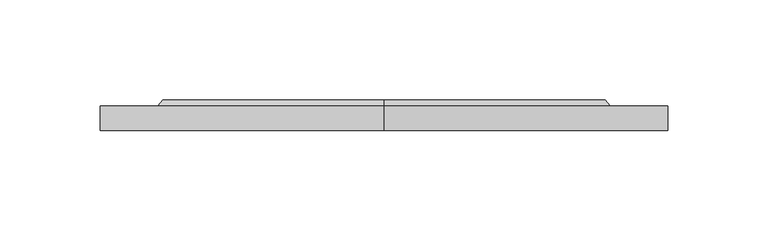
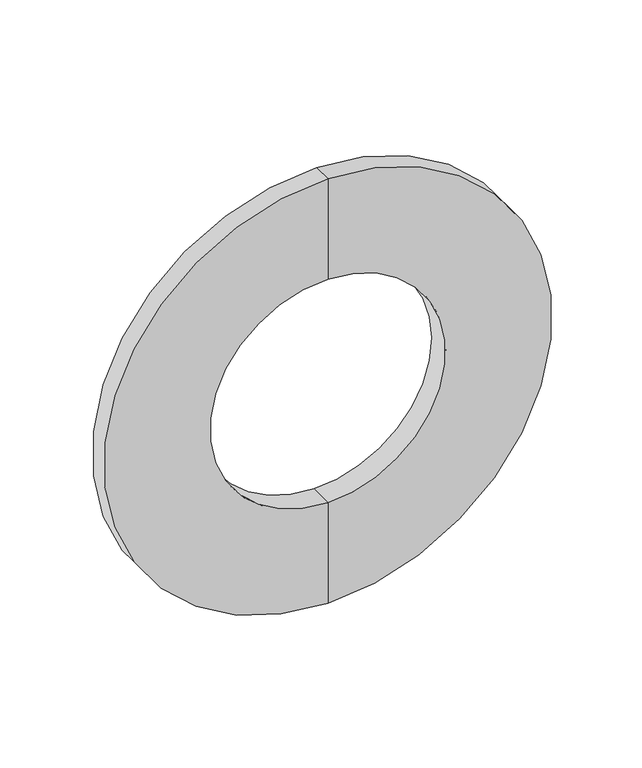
"""IFC4 building model written with IfcOpenShell, lengths in millimetres: pipe fitting geometry, Фланец : Фланец."""

from ifc_helpers import new_model, si_unit, frame, origin, place, context, project, spatial, polyline, circle_curve, source, transform, mapped, element, save
from ifc_brep_helpers import plane_surface, cylinder_surface, revolved_surface, advanced_brep


def pipe_fitting_52b01f8b(model_context):
    return source(origin(), model_context, "Body", "AdvancedBrep", [
        advanced_brep(
        [(0.0, 0.0, -142.5), (0.0, 0.0, 142.5), (0.0, 12.3, 142.5), (0.0, 12.3, -142.5), (0.0, 0.0, -75.0), (0.0, 0.0, 75.0), (0.0, 15.3, -75.0), (0.0, 15.3, 75.0), (0.0, 15.3, -111.0), (0.0, 15.3, 111.0), (0.0, 12.3, -113.5), (0.0, 12.3, 113.5)],
        [
            (0, 1, circle_curve(frame((0.0, 0.0, 0.0), z_axis=(0.0, 1.0, 0.0), x_axis=(0.0, 0.0, 1.0)), 142.5)),
            (1, 2),
            (2, 3, circle_curve(frame((0.0, 12.3, 0.0), z_axis=(0.0, -1.0, 0.0), x_axis=(0.0, 0.0, 1.0)), 142.5)),
            (3, 0),
            (1, 0, circle_curve(frame((0.0, 0.0, 0.0), z_axis=(0.0, 1.0, 0.0), x_axis=(0.0, 0.0, 1.0)), 142.5)),
            (3, 2, circle_curve(frame((0.0, 12.3, 0.0), z_axis=(0.0, -1.0, 0.0), x_axis=(0.0, 0.0, 1.0)), 142.5)),
            (4, 5, circle_curve(frame((0.0, 0.0, 0.0), z_axis=(0.0, 1.0, 0.0), x_axis=(0.0, 0.0, 1.0)), 75.0)),
            (5, 1),
            (0, 4),
            (5, 4, circle_curve(frame((0.0, 0.0, 0.0), z_axis=(0.0, 1.0, 0.0), x_axis=(0.0, 0.0, 1.0)), 75.0)),
            (6, 7, circle_curve(frame((0.0, 15.3, 0.0), z_axis=(0.0, 1.0, 0.0), x_axis=(0.0, 0.0, 1.0)), 75.0)),
            (7, 5),
            (4, 6),
            (7, 6, circle_curve(frame((0.0, 15.3, 0.0), z_axis=(0.0, 1.0, 0.0), x_axis=(0.0, 0.0, 1.0)), 75.0)),
            (8, 9, circle_curve(frame((0.0, 15.3, 0.0), z_axis=(0.0, 1.0, 0.0), x_axis=(0.0, 0.0, 1.0)), 111.0)),
            (9, 7),
            (6, 8),
            (9, 8, circle_curve(frame((0.0, 15.3, 0.0), z_axis=(0.0, 1.0, 0.0), x_axis=(0.0, 0.0, 1.0)), 111.0)),
            (10, 11, circle_curve(frame((0.0, 12.3, 0.0), z_axis=(0.0, 1.0, 0.0), x_axis=(0.0, 0.0, 1.0)), 113.5)),
            (11, 9),
            (8, 10),
            (11, 10, circle_curve(frame((0.0, 12.3, 0.0), z_axis=(0.0, 1.0, 0.0), x_axis=(0.0, 0.0, 1.0)), 113.5)),
            (2, 11),
            (10, 3),
        ],
        [
            cylinder_surface(frame((0.0, -60.0, 0.0), z_axis=(0.0, -1.0, 0.0), x_axis=(0.0, 0.0, 1.0)), 142.5),
            plane_surface(frame((0.0, 0.0, 0.0), z_axis=(0.0, -1.0, 0.0), x_axis=(0.0, 0.0, 1.0))),
            revolved_surface(polyline([(0.0, 0.0, 75.0), (0.0, 15.299999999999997, 75.0)]), (0.0, -60.0, 0.0), (0.0, -1.0, 0.0)),
            plane_surface(frame((0.0, 15.3, 0.0), z_axis=(0.0, 1.0, 0.0), x_axis=(0.0, 0.0, 1.0))),
            revolved_surface(polyline([(0.0, 15.3, 111.0), (0.0, 12.3, 113.5)]), (0.0, -60.0, 0.0), (0.0, -1.0, 0.0)),
            plane_surface(frame((0.0, 12.3, 0.0), z_axis=(0.0, 1.0, 0.0), x_axis=(0.0, 0.0, 1.0))),
        ],
        [
            (0, [[1, 2, 3, 4]]),
            (0, [[5, -4, 6, -2]]),
            (1, [[7, 8, -1, 9]]),
            (1, [[10, -9, -5, -8]]),
            (2, [[11, 12, -7, 13]]),
            (2, [[14, -13, -10, -12]]),
            (3, [[15, 16, -11, 17]]),
            (3, [[18, -17, -14, -16]]),
            (4, [[19, 20, -15, 21]]),
            (4, [[22, -21, -18, -20]]),
            (5, [[-3, 23, -19, 24]]),
            (5, [[-6, -24, -22, -23]]),
        ],
    ),
    ])


if __name__ == "__main__":
    model = new_model("IFC4")
    model_context = context("Model", 3, world=origin())
    ifc_project = project(units=[si_unit("LENGTHUNIT", "METRE", prefix="MILLI")], contexts=[model_context])
    site = spatial("IfcSite", under=ifc_project)
    building = spatial("IfcBuilding", under=site)
    placement = place(None, origin())
    pipe_fitting_shape = pipe_fitting_52b01f8b(model_context)
    element("IfcPipeFitting", 1, ObjectType="Фланец : Фланец", at=placement, inside=building, context=model_context, shape_type="MappedRepresentation", body=[
        mapped(pipe_fitting_shape, transform((0.0, 0.0, 0.0), x_axis=(1.0, 0.0, 0.0), y_axis=(0.0, 1.0, 0.0), z_axis=(0.0, 0.0, 1.0))),
    ])
    save(model, "model.ifc")
